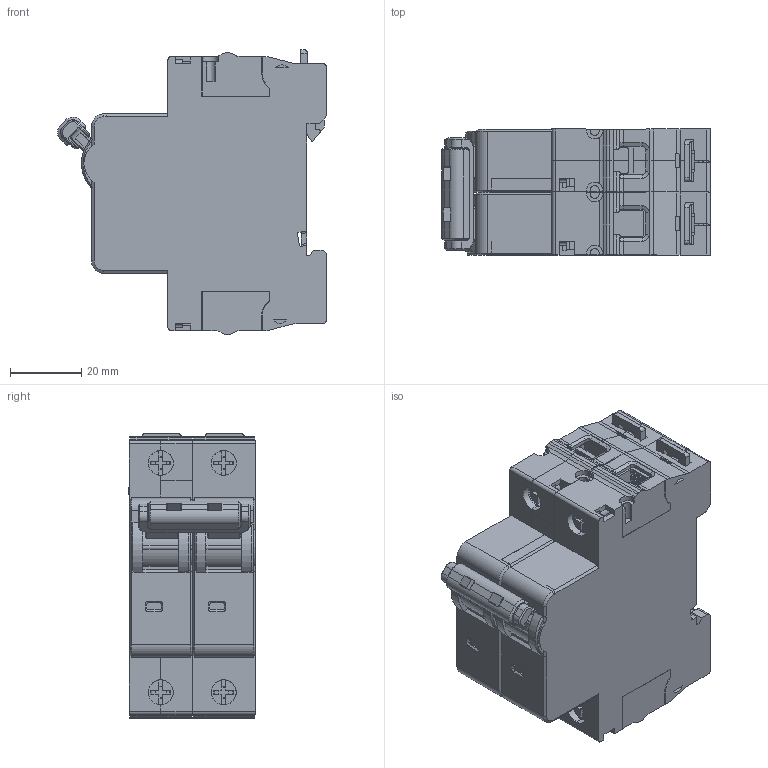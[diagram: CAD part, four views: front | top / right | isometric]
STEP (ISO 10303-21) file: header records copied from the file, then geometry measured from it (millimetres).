
FILE_DESCRIPTION((''),'2;1');
FILE_NAME('2255008000_ASM_SW0001','2019-10-15T',('gang.wang'),(''),'PRO/ENGINEER BY PARAMETRIC TECHNOLOGY CORPORATION, 2015440','PRO/ENGINEER BY PARAMETRIC TECHNOLOGY CORPORATION, 2015440','');
FILE_SCHEMA(('CONFIG_CONTROL_DESIGN'));
Products named in the file (1): 2255008000_ASM_SW0001
Bounding box: 75.5 x 35.55 x 79.9 mm (x, y, z)
Volume: 131243 mm3; surface area: 51216.7 mm2
Topology: 1 solids, 10 shells, 4635 faces, 13079 edges, 8617 vertices
Faces by surface type: plane 3166, cylinder 831, extrusion 433, cone 135, torus 29, bspline 24, sphere 17
Entity records: 152567 total; most frequent: CARTESIAN_POINT 33078, ORIENTED_EDGE 26124, DIRECTION 22609, EDGE_CURVE 13062, VECTOR 10343, LINE 9910, VERTEX_POINT 8617, AXIS2_PLACEMENT_3D 6133
